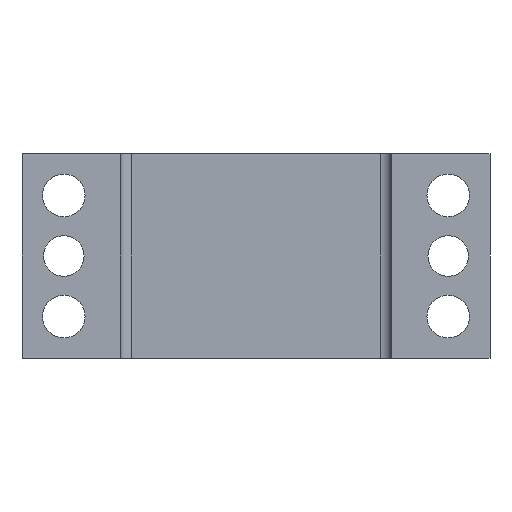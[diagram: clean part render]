
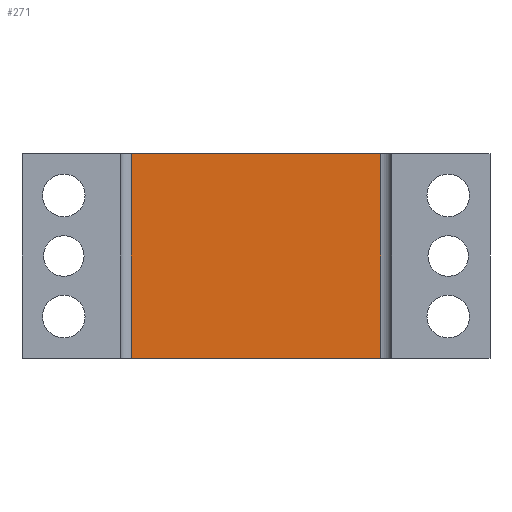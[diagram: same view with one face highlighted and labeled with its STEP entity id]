
A CAD part, front view. The second image highlights one B-rep face of the part: STEP entity #271.
In plain terms, the highlighted planar face has unit normal (0, -1, 0).
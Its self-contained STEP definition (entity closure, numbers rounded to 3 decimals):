
#47 = VERTEX_POINT ( 'NONE', #892 ) ;
#86 = VERTEX_POINT ( 'NONE', #1200 ) ;
#103 = EDGE_CURVE ( 'NONE', #86, #222, #1268, .T. ) ;
#115 = EDGE_CURVE ( 'NONE', #47, #86, #1323, .T. ) ;
#222 = VERTEX_POINT ( 'NONE', #571 ) ;
#271 = ADVANCED_FACE ( 'NONE', ( #708 ), #709, .F. ) ;
#315 = ORIENTED_EDGE ( 'NONE', *, *, #466, .F. ) ;
#320 = ORIENTED_EDGE ( 'NONE', *, *, #103, .T. ) ;
#408 = ORIENTED_EDGE ( 'NONE', *, *, #115, .T. ) ;
#466 = EDGE_CURVE ( 'NONE', #485, #222, #1435, .T. ) ;
#485 = VERTEX_POINT ( 'NONE', #1508 ) ;
#510 = EDGE_CURVE ( 'NONE', #47, #485, #1605, .T. ) ;
#534 = ORIENTED_EDGE ( 'NONE', *, *, #510, .F. ) ;
#571 = CARTESIAN_POINT ( 'NONE',  ( 29.8, 2.7, -24.5 ) ) ;
#708 = FACE_OUTER_BOUND ( 'NONE', #1617, .T. ) ;
#709 = PLANE ( 'NONE',  #713 ) ;
#713 = AXIS2_PLACEMENT_3D ( 'NONE', #714, #715, #716 ) ;
#714 = CARTESIAN_POINT ( 'NONE',  ( -29.8, 2.7, 24.5 ) ) ;
#715 = DIRECTION ( 'NONE',  ( 0., 1., 0. ) ) ;
#716 = DIRECTION ( 'NONE',  ( 0., 0., 1. ) ) ;
#892 = CARTESIAN_POINT ( 'NONE',  ( -29.8, 2.7, 24.5 ) ) ;
#1200 = CARTESIAN_POINT ( 'NONE',  ( -29.8, 2.7, -24.5 ) ) ;
#1268 = LINE ( 'NONE', #1269, #1270 ) ;
#1269 = CARTESIAN_POINT ( 'NONE',  ( -29.8, 2.7, -24.5 ) ) ;
#1270 = VECTOR ( 'NONE', #1271, 1000. ) ;
#1271 = DIRECTION ( 'NONE',  ( 1., 0., 0. ) ) ;
#1323 = LINE ( 'NONE', #1324, #1325 ) ;
#1324 = CARTESIAN_POINT ( 'NONE',  ( -29.8, 2.7, 24.5 ) ) ;
#1325 = VECTOR ( 'NONE', #1326, 1000. ) ;
#1326 = DIRECTION ( 'NONE',  ( 0., 0., -1. ) ) ;
#1435 = LINE ( 'NONE', #1436, #1437 ) ;
#1436 = CARTESIAN_POINT ( 'NONE',  ( 29.8, 2.7, 24.5 ) ) ;
#1437 = VECTOR ( 'NONE', #1438, 1000. ) ;
#1438 = DIRECTION ( 'NONE',  ( 0., 0., -1. ) ) ;
#1508 = CARTESIAN_POINT ( 'NONE',  ( 29.8, 2.7, 24.5 ) ) ;
#1605 = LINE ( 'NONE', #1606, #1607 ) ;
#1606 = CARTESIAN_POINT ( 'NONE',  ( -29.8, 2.7, 24.5 ) ) ;
#1607 = VECTOR ( 'NONE', #1608, 1000. ) ;
#1608 = DIRECTION ( 'NONE',  ( 1., 0., 0. ) ) ;
#1617 = EDGE_LOOP ( 'NONE', ( #320, #315, #534, #408 ) ) ;
